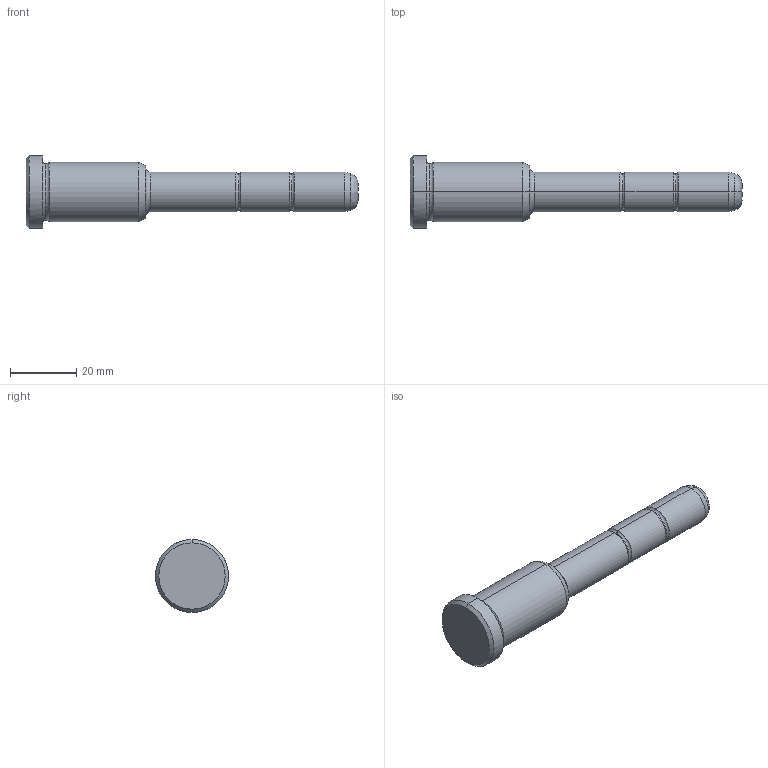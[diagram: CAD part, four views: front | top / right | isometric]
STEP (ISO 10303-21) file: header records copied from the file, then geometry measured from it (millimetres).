
FILE_DESCRIPTION(('CATIA V5 STEP Exchange'),'2;1');
FILE_NAME('C:\Users\Utente\Desktop\IO LAVORO\3D X SITO CF\X SITO\PLASTICA\351\351-12X36X100.stp','2021-08-17T12:28:01+00:00',('none'),('none'),'CATIA Version 5 Release 20 GA (IN-10)','CATIA V5 STEP AP203','none');
FILE_SCHEMA(('CONFIG_CONTROL_DESIGN'));
Length unit declared in the file: millimetre
Products named in the file (1): 351-12X36X100
Bounding box: 100 x 22 x 22 mm (x, y, z)
Volume: 16765.6 mm3; surface area: 5124.1 mm2
Topology: 1 solids, 1 shells, 36 faces, 102 edges, 70 vertices
Faces by surface type: torus 14, cylinder 10, cone 6, plane 4, bspline 2
Entity records: 1308 total; most frequent: CARTESIAN_POINT 375, ORIENTED_EDGE 204, DIRECTION 152, AXIS2_PLACEMENT_3D 103, EDGE_CURVE 102, VERTEX_POINT 70, CIRCLE 68, EDGE_LOOP 38
